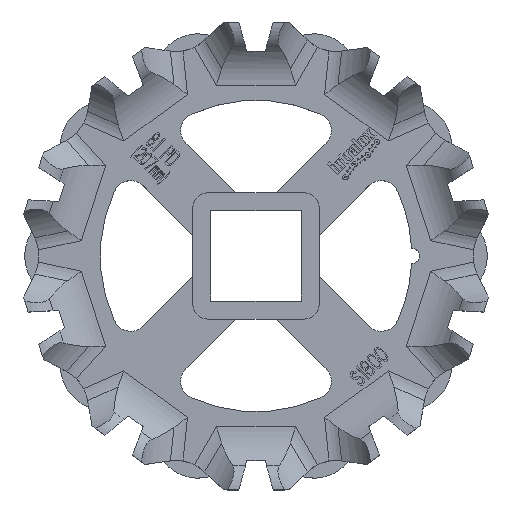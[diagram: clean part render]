
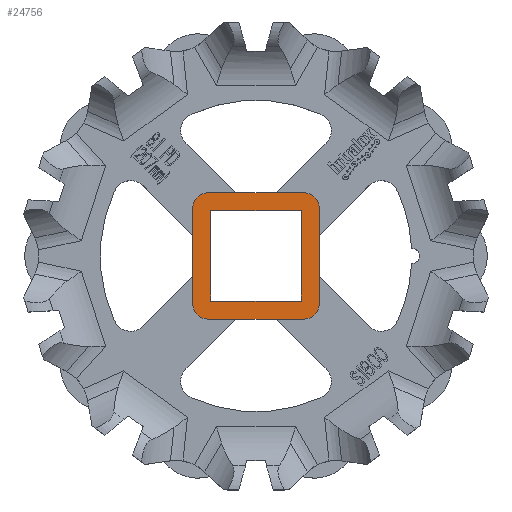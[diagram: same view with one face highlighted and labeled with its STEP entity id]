
A CAD part, top view. The second image highlights one B-rep face of the part: STEP entity #24756.
In plain terms, the highlighted planar face has unit normal (0, 0, 1).
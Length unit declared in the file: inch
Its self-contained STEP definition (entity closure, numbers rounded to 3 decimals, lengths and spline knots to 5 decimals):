
#8112=DIRECTION('',(0.,-1.,0.));
#8113=VECTOR('',#8112,1.6);
#8114=CARTESIAN_POINT('',(-1.05,0.8,0.75));
#8115=LINE('',#8114,#8113);
#8116=CARTESIAN_POINT('',(-0.8,0.8,0.75));
#8117=DIRECTION('',(0.,0.,1.));
#8118=DIRECTION('',(0.,1.,0.));
#8119=AXIS2_PLACEMENT_3D('',#8116,#8117,#8118);
#8121=DIRECTION('',(-1.,0.,0.));
#8122=VECTOR('',#8121,1.6);
#8123=CARTESIAN_POINT('',(0.8,1.05,0.75));
#8124=LINE('',#8123,#8122);
#8125=CARTESIAN_POINT('',(0.8,0.8,0.75));
#8126=DIRECTION('',(0.,0.,1.));
#8127=DIRECTION('',(1.,0.,0.));
#8128=AXIS2_PLACEMENT_3D('',#8125,#8126,#8127);
#8130=DIRECTION('',(0.,1.,0.));
#8131=VECTOR('',#8130,1.6);
#8132=CARTESIAN_POINT('',(1.05,-0.8,0.75));
#8133=LINE('',#8132,#8131);
#8134=CARTESIAN_POINT('',(0.8,-0.8,0.75));
#8135=DIRECTION('',(0.,0.,1.));
#8136=DIRECTION('',(0.,-1.,0.));
#8137=AXIS2_PLACEMENT_3D('',#8134,#8135,#8136);
#8139=DIRECTION('',(1.,0.,0.));
#8140=VECTOR('',#8139,1.6);
#8141=CARTESIAN_POINT('',(-0.8,-1.05,0.75));
#8142=LINE('',#8141,#8140);
#8143=CARTESIAN_POINT('',(-0.8,-0.8,0.75));
#8144=DIRECTION('',(0.,0.,1.));
#8145=DIRECTION('',(-1.,0.,0.));
#8146=AXIS2_PLACEMENT_3D('',#8143,#8144,#8145);
#8148=DIRECTION('',(1.,0.,0.));
#8149=VECTOR('',#8148,1.5);
#8150=CARTESIAN_POINT('',(-0.75,-0.75,0.75));
#8151=LINE('',#8150,#8149);
#8152=DIRECTION('',(0.,1.,0.));
#8153=VECTOR('',#8152,1.5);
#8154=CARTESIAN_POINT('',(0.75,-0.75,0.75));
#8155=LINE('',#8154,#8153);
#8156=DIRECTION('',(-1.,0.,0.));
#8157=VECTOR('',#8156,1.5);
#8158=CARTESIAN_POINT('',(0.75,0.75,0.75));
#8159=LINE('',#8158,#8157);
#8160=DIRECTION('',(0.,-1.,0.));
#8161=VECTOR('',#8160,1.5);
#8162=CARTESIAN_POINT('',(-0.75,0.75,0.75));
#8163=LINE('',#8162,#8161);
#14329=CARTESIAN_POINT('',(-1.05,0.8,0.75));
#14330=CARTESIAN_POINT('',(-1.05,-0.8,0.75));
#14331=VERTEX_POINT('',#14329);
#14332=VERTEX_POINT('',#14330);
#14333=CARTESIAN_POINT('',(-0.8,-1.05,0.75));
#14334=VERTEX_POINT('',#14333);
#14335=CARTESIAN_POINT('',(0.8,-1.05,0.75));
#14336=VERTEX_POINT('',#14335);
#14337=CARTESIAN_POINT('',(1.05,-0.8,0.75));
#14338=VERTEX_POINT('',#14337);
#14339=CARTESIAN_POINT('',(1.05,0.8,0.75));
#14340=VERTEX_POINT('',#14339);
#14341=CARTESIAN_POINT('',(0.8,1.05,0.75));
#14342=VERTEX_POINT('',#14341);
#14343=CARTESIAN_POINT('',(-0.8,1.05,0.75));
#14344=VERTEX_POINT('',#14343);
#14385=CARTESIAN_POINT('',(-0.75,-0.75,0.75));
#14386=CARTESIAN_POINT('',(0.75,-0.75,0.75));
#14387=VERTEX_POINT('',#14385);
#14388=VERTEX_POINT('',#14386);
#14389=CARTESIAN_POINT('',(0.75,0.75,0.75));
#14390=VERTEX_POINT('',#14389);
#14391=CARTESIAN_POINT('',(-0.75,0.75,0.75));
#14392=VERTEX_POINT('',#14391);
#24735=CARTESIAN_POINT('',(0.,0.,0.75));
#24736=DIRECTION('',(0.,0.,1.));
#24737=DIRECTION('',(1.,0.,0.));
#24738=AXIS2_PLACEMENT_3D('',#24735,#24736,#24737);
#24739=PLANE('',#24738);
#24740=ORIENTED_EDGE('',*,*,#24438,.F.);
#24741=ORIENTED_EDGE('',*,*,#24414,.F.);
#24742=ORIENTED_EDGE('',*,*,#24320,.F.);
#24743=ORIENTED_EDGE('',*,*,#24293,.F.);
#24744=ORIENTED_EDGE('',*,*,#24241,.F.);
#24745=ORIENTED_EDGE('',*,*,#24646,.F.);
#24746=ORIENTED_EDGE('',*,*,#24556,.F.);
#24747=ORIENTED_EDGE('',*,*,#24529,.F.);
#24748=EDGE_LOOP('',(#24740,#24741,#24742,#24743,#24744,#24745,#24746,#24747));
#24749=FACE_OUTER_BOUND('',#24748,.F.);
#24750=ORIENTED_EDGE('',*,*,#24687,.T.);
#24751=ORIENTED_EDGE('',*,*,#24702,.T.);
#24752=ORIENTED_EDGE('',*,*,#24716,.T.);
#24753=ORIENTED_EDGE('',*,*,#24729,.T.);
#24754=EDGE_LOOP('',(#24750,#24751,#24752,#24753));
#24755=FACE_BOUND('',#24754,.F.);
#24756=ADVANCED_FACE('',(#24749,#24755),#24739,.T.);
#8120=CIRCLE('',#8119,0.25);
#8129=CIRCLE('',#8128,0.25);
#8138=CIRCLE('',#8137,0.25);
#8147=CIRCLE('',#8146,0.25);
#24241=EDGE_CURVE('',#14338,#14340,#8133,.T.);
#24293=EDGE_CURVE('',#14340,#14342,#8129,.T.);
#24320=EDGE_CURVE('',#14342,#14344,#8124,.T.);
#24414=EDGE_CURVE('',#14344,#14331,#8120,.T.);
#24438=EDGE_CURVE('',#14331,#14332,#8115,.T.);
#24529=EDGE_CURVE('',#14332,#14334,#8147,.T.);
#24556=EDGE_CURVE('',#14334,#14336,#8142,.T.);
#24646=EDGE_CURVE('',#14336,#14338,#8138,.T.);
#24687=EDGE_CURVE('',#14387,#14388,#8151,.T.);
#24702=EDGE_CURVE('',#14388,#14390,#8155,.T.);
#24716=EDGE_CURVE('',#14390,#14392,#8159,.T.);
#24729=EDGE_CURVE('',#14392,#14387,#8163,.T.);
